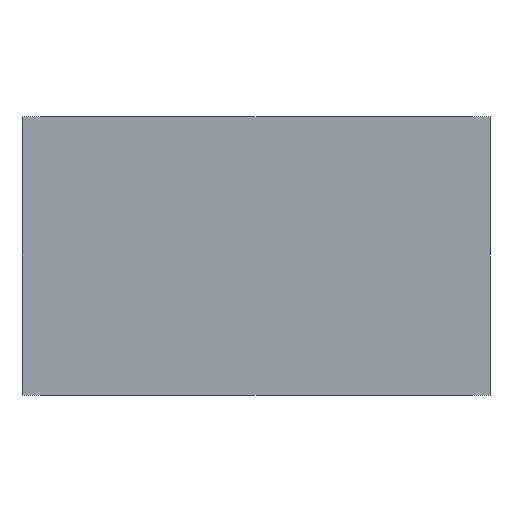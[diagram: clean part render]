
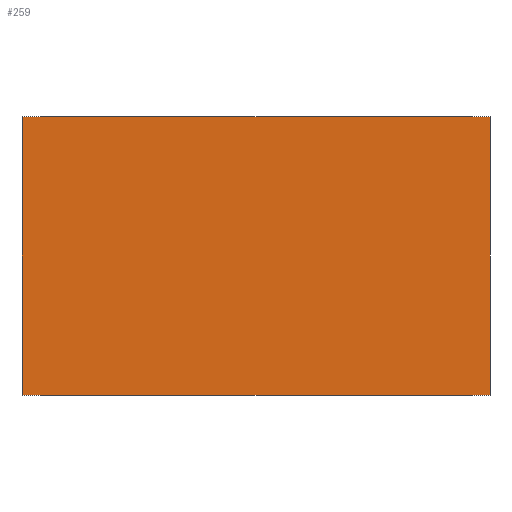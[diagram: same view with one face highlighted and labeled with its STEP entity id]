
A CAD part, front view. The second image highlights one B-rep face of the part: STEP entity #259.
In plain terms, the highlighted planar face has unit normal (0, -1, 0).
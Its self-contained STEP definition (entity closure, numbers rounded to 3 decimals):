
#6 = EDGE_LOOP ( 'NONE', ( #132, #131, #130, #88 ) ) ;
#47 = LINE ( 'NONE', #561, #239 ) ;
#88 = ORIENTED_EDGE ( 'NONE', *, *, #598, .T. ) ;
#99 = FACE_OUTER_BOUND ( 'NONE', #6, .T. ) ;
#130 = ORIENTED_EDGE ( 'NONE', *, *, #649, .F. ) ;
#131 = ORIENTED_EDGE ( 'NONE', *, *, #618, .F. ) ;
#132 = ORIENTED_EDGE ( 'NONE', *, *, #675, .T. ) ;
#202 = LINE ( 'NONE', #376, #234 ) ;
#234 = VECTOR ( 'NONE', #390, 1000. ) ;
#239 = VECTOR ( 'NONE', #558, 1000. ) ;
#259 = ADVANCED_FACE ( 'NONE', ( #99 ), #470, .F. ) ;
#299 = CARTESIAN_POINT ( 'NONE',  ( -101., 0., 120. ) ) ;
#303 = DIRECTION ( 'NONE',  ( 1., 0., 0. ) ) ;
#339 = DIRECTION ( 'NONE',  ( 1., 0., 0. ) ) ;
#340 = CARTESIAN_POINT ( 'NONE',  ( -101., 0., 0. ) ) ;
#376 = CARTESIAN_POINT ( 'NONE',  ( 101., 0., 120. ) ) ;
#390 = DIRECTION ( 'NONE',  ( 0., 0., -1. ) ) ;
#396 = DIRECTION ( 'NONE',  ( -1., 0., 0. ) ) ;
#416 = VERTEX_POINT ( 'NONE', #501 ) ;
#418 = VERTEX_POINT ( 'NONE', #503 ) ;
#420 = VERTEX_POINT ( 'NONE', #505 ) ;
#429 = VERTEX_POINT ( 'NONE', #514 ) ;
#466 = DIRECTION ( 'NONE',  ( 0., 1., 0. ) ) ;
#470 = PLANE ( 'NONE',  #630 ) ;
#477 = CARTESIAN_POINT ( 'NONE',  ( -101., 0., 120. ) ) ;
#501 = CARTESIAN_POINT ( 'NONE',  ( -101., 0., 0. ) ) ;
#503 = CARTESIAN_POINT ( 'NONE',  ( -101., 0., 120. ) ) ;
#505 = CARTESIAN_POINT ( 'NONE',  ( 101., 0., 120. ) ) ;
#514 = CARTESIAN_POINT ( 'NONE',  ( 101., 0., 0. ) ) ;
#558 = DIRECTION ( 'NONE',  ( 0., 0., -1. ) ) ;
#561 = CARTESIAN_POINT ( 'NONE',  ( -101., 0., 120. ) ) ;
#598 = EDGE_CURVE ( 'NONE', #418, #416, #47, .T. ) ;
#618 = EDGE_CURVE ( 'NONE', #420, #429, #202, .T. ) ;
#630 = AXIS2_PLACEMENT_3D ( 'NONE', #477, #466, #396 ) ;
#649 = EDGE_CURVE ( 'NONE', #418, #420, #710, .T. ) ;
#675 = EDGE_CURVE ( 'NONE', #416, #429, #702, .T. ) ;
#701 = VECTOR ( 'NONE', #339, 1000. ) ;
#702 = LINE ( 'NONE', #340, #701 ) ;
#710 = LINE ( 'NONE', #299, #731 ) ;
#731 = VECTOR ( 'NONE', #303, 1000. ) ;
